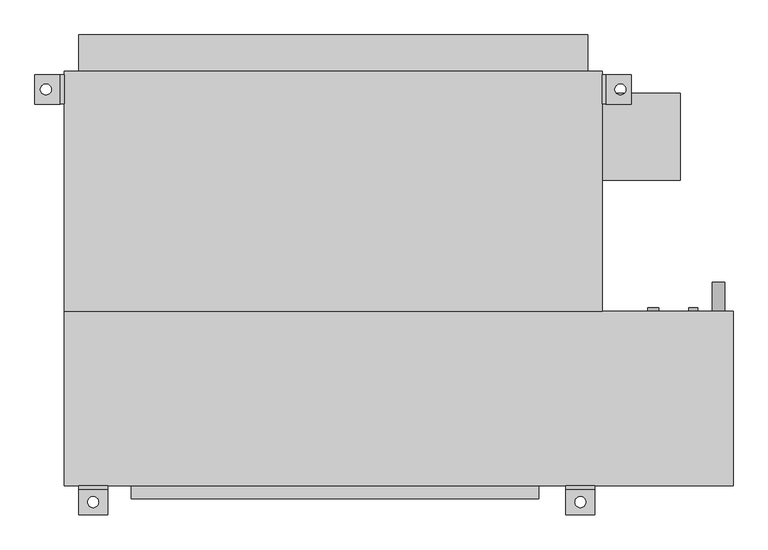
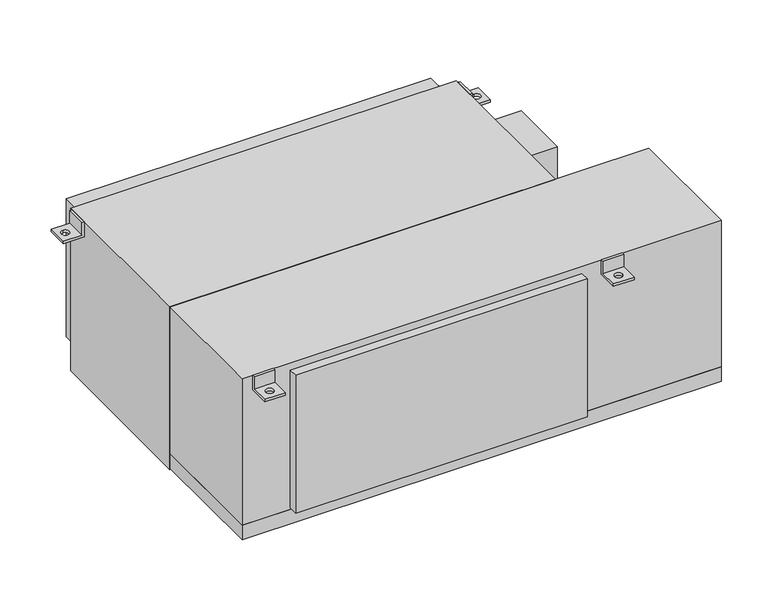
"""IFC4 building model written with IfcOpenShell, lengths in millimetres: proxy geometry, Concealed_High_Capacity_Horizontal_Fan_Coil_Unit_With_Plenum_-_42DCA_-_CARRIER_-_4-Pipe_ValveEnclosure_RH_2022 : Size 12 - 277v/60Hz/1Ph - 6/2 Coil."""

from ifc_helpers import new_model, si_unit, point, frame, frame_2d, origin, place, context, project, spatial, polyline, circle_curve, trimmed, segment, composite_curve, outline, extrude, source, transform, mapped, element, save
from ifc_brep_helpers import plane_surface, revolved_surface, advanced_brep


def mechanical_equipment_ee1d81b4(model_context):
    return source(origin(), model_context, "Body", "SolidModel", [
        advanced_brep(
        [(609.6, -390.525, 0.0), (609.6, -396.875, 0.0), (609.6, -396.875, -31.75), (609.6, -441.325, -31.75), (609.6, -441.325, -38.1), (609.6, -390.525, -38.1), (558.8, -390.525, 0.0), (558.8, -390.525, -38.1), (558.8, -441.325, -38.1), (558.8, -441.325, -31.75), (558.8, -396.875, -31.75), (558.8, -396.875, 0.0), (574.675, -419.1, -31.75), (593.725, -419.1, -31.75), (593.725, -419.1, -38.1), (574.675, -419.1, -38.1)],
        [
            (0, 1),
            (1, 2),
            (2, 3),
            (3, 4),
            (4, 5),
            (5, 0),
            (6, 7),
            (7, 8),
            (8, 9),
            (9, 10),
            (10, 11),
            (11, 6),
            (0, 6),
            (11, 1),
            (10, 2),
            (9, 3),
            (12, 13, circle_curve(frame((584.2, -419.1, -31.75), z_axis=(0.0, 0.0, -1.0), x_axis=(1.0, 0.0, 0.0)), 9.525)),
            (13, 12, circle_curve(frame((584.2, -419.1, -31.75), z_axis=(0.0, 0.0, -1.0), x_axis=(1.0, 0.0, 0.0)), 9.525)),
            (8, 4),
            (7, 5),
            (14, 15, circle_curve(frame((584.2, -419.1, -38.1), z_axis=(0.0, 0.0, 1.0), x_axis=(1.0, 0.0, 0.0)), 9.525)),
            (15, 14, circle_curve(frame((584.2, -419.1, -38.1), z_axis=(0.0, 0.0, 1.0), x_axis=(1.0, 0.0, 0.0)), 9.525)),
            (12, 15),
            (14, 13),
        ],
        [
            plane_surface(frame((609.6, -396.875, 0.0), z_axis=(1.0, 0.0, 0.0), x_axis=(0.0, -1.0, 0.0))),
            plane_surface(frame((558.8, -396.875, 0.0), z_axis=(-1.0, 0.0, 0.0), x_axis=(0.0, 1.0, 0.0))),
            plane_surface(frame((609.6, -390.525, 0.0), z_axis=(0.0, 0.0, 1.0), x_axis=(-1.0, 0.0, 0.0))),
            plane_surface(frame((609.6, -396.875, 0.0), z_axis=(0.0, -1.0, 0.0), x_axis=(-1.0, 0.0, 0.0))),
            plane_surface(frame((609.6, -396.875, -31.75), z_axis=(0.0, 0.0, 1.0), x_axis=(-1.0, 0.0, 0.0))),
            plane_surface(frame((609.6, -441.325, -31.75), z_axis=(0.0, -1.0, 0.0), x_axis=(-1.0, 0.0, 0.0))),
            plane_surface(frame((609.6, -441.325, -38.1), z_axis=(0.0, 0.0, -1.0), x_axis=(-1.0, 0.0, 0.0))),
            plane_surface(frame((609.6, -390.525, -38.1), z_axis=(0.0, 1.0, 0.0), x_axis=(-1.0, 0.0, 0.0))),
            revolved_surface(polyline([(593.725, -419.1, -38.1), (593.725, -419.1, -31.75)]), (584.2, -419.1, -31.75), (0.0, 0.0, -1.0)),
        ],
        [
            (0, [[1, 2, 3, 4, 5, 6]]),
            (1, [[7, 8, 9, 10, 11, 12]]),
            (2, [[-1, 13, -12, 14]]),
            (3, [[-2, -14, -11, 15]]),
            (4, [[-3, -15, -10, 16], [17, 18]]),
            (5, [[-4, -16, -9, 19]]),
            (6, [[-5, -19, -8, 20], [21, 22]]),
            (7, [[-6, -20, -7, -13]]),
            (8, [[23, -21, 24, -17]]),
            (8, [[-23, -18, -24, -22]]),
        ],
    ),
        advanced_brep(
        [(-241.3, -390.525, -38.1), (-241.3, -390.525, 0.0), (-241.3, -396.875, 0.0), (-241.3, -396.875, -31.75), (-241.3, -441.325, -31.75), (-241.3, -441.325, -38.1), (-292.1, -390.525, -38.1), (-292.1, -441.325, -38.1), (-292.1, -441.325, -31.75), (-292.1, -396.875, -31.75), (-292.1, -396.875, 0.0), (-292.1, -390.525, 0.0), (-276.225, -419.1, -31.75), (-257.175, -419.1, -31.75), (-257.175, -419.1, -38.1), (-276.225, -419.1, -38.1)],
        [
            (0, 1),
            (1, 2),
            (2, 3),
            (3, 4),
            (4, 5),
            (5, 0),
            (6, 7),
            (7, 8),
            (8, 9),
            (9, 10),
            (10, 11),
            (11, 6),
            (0, 6),
            (11, 1),
            (10, 2),
            (9, 3),
            (8, 4),
            (12, 13, circle_curve(frame((-266.7, -419.1, -31.75), z_axis=(0.0, 0.0, -1.0), x_axis=(1.0, 0.0, 0.0)), 9.525)),
            (13, 12, circle_curve(frame((-266.7, -419.1, -31.75), z_axis=(0.0, 0.0, -1.0), x_axis=(1.0, 0.0, 0.0)), 9.525)),
            (7, 5),
            (14, 15, circle_curve(frame((-266.7, -419.1, -38.1), z_axis=(0.0, 0.0, 1.0), x_axis=(1.0, 0.0, 0.0)), 9.525)),
            (15, 14, circle_curve(frame((-266.7, -419.1, -38.1), z_axis=(0.0, 0.0, 1.0), x_axis=(1.0, 0.0, 0.0)), 9.525)),
            (12, 15),
            (14, 13),
        ],
        [
            plane_surface(frame((-241.3, -390.525, -38.1), z_axis=(1.0, 0.0, 0.0), x_axis=(0.0, 0.0, 1.0))),
            plane_surface(frame((-292.1, -390.525, -38.1), z_axis=(-1.0, 0.0, 0.0), x_axis=(0.0, 0.0, -1.0))),
            plane_surface(frame((-241.3, -390.525, -38.1), z_axis=(0.0, 1.0, 0.0), x_axis=(-1.0, 0.0, 0.0))),
            plane_surface(frame((-241.3, -390.525, 0.0), z_axis=(0.0, 0.0, 1.0), x_axis=(-1.0, 0.0, 0.0))),
            plane_surface(frame((-241.3, -396.875, 0.0), z_axis=(0.0, -1.0, 0.0), x_axis=(-1.0, 0.0, 0.0))),
            plane_surface(frame((-241.3, -396.875, -31.75), z_axis=(0.0, 0.0, 1.0), x_axis=(-1.0, 0.0, 0.0))),
            plane_surface(frame((-241.3, -441.325, -31.75), z_axis=(0.0, -1.0, 0.0), x_axis=(-1.0, 0.0, 0.0))),
            plane_surface(frame((-241.3, -441.325, -38.1), z_axis=(0.0, 0.0, -1.0), x_axis=(-1.0, 0.0, 0.0))),
            revolved_surface(polyline([(-257.175, -419.1, -38.1), (-257.175, -419.1, -31.75)]), (-266.7, -419.1, -31.75), (0.0, 0.0, -1.0)),
        ],
        [
            (0, [[1, 2, 3, 4, 5, 6]]),
            (1, [[7, 8, 9, 10, 11, 12]]),
            (2, [[-1, 13, -12, 14]]),
            (3, [[-2, -14, -11, 15]]),
            (4, [[-3, -15, -10, 16]]),
            (5, [[-4, -16, -9, 17], [18, 19]]),
            (6, [[-5, -17, -8, 20]]),
            (7, [[-6, -20, -7, -13], [21, 22]]),
            (8, [[23, -21, 24, -18]]),
            (8, [[-23, -19, -24, -22]]),
        ],
    ),
        extrude(outline(composite_curve([segment(trimmed(circle_curve(frame_2d((-400.05, 825.5)), 11.1125), [point((-400.05, 814.3875))], [point((-400.05, 836.6125))], False, "CARTESIAN"), True, "CONTINUOUS"), segment(trimmed(circle_curve(frame_2d((-400.05, 825.5)), 11.1125), [point((-400.05, 836.6125))], [point((-400.05, 814.3875))], False, "CARTESIAN"), True, "CONTINUOUS")], self_intersect=False)), frame((0.0, -85.725, 0.0), z_axis=(0.0, 1.0, 0.0), x_axis=(0.0, 0.0, 1.0)), (0.0, 0.0, 1.0), 50.8),
        extrude(outline(composite_curve([segment(trimmed(circle_curve(frame_2d((-44.45, 711.2)), 9.525), [point((-44.45, 701.675))], [point((-44.45, 720.725))], False, "CARTESIAN"), True, "CONTINUOUS"), segment(trimmed(circle_curve(frame_2d((-44.45, 711.2)), 9.525), [point((-44.45, 720.725))], [point((-44.45, 701.675))], False, "CARTESIAN"), True, "CONTINUOUS")], self_intersect=False)), frame((0.0, -85.725, 0.0), z_axis=(0.0, 1.0, 0.0), x_axis=(0.0, 0.0, 1.0)), (0.0, 0.0, 1.0), 6.35),
        extrude(outline(composite_curve([segment(trimmed(circle_curve(frame_2d((-276.225, 711.2)), 9.525), [point((-276.225, 701.675))], [point((-276.225, 720.725))], False, "CARTESIAN"), True, "CONTINUOUS"), segment(trimmed(circle_curve(frame_2d((-276.225, 711.2)), 9.525), [point((-276.225, 720.725))], [point((-276.225, 701.675))], False, "CARTESIAN"), True, "CONTINUOUS")], self_intersect=False)), frame((0.0, -85.725, 0.0), z_axis=(0.0, 1.0, 0.0), x_axis=(0.0, 0.0, 1.0)), (0.0, 0.0, 1.0), 6.35),
        extrude(outline(composite_curve([segment(trimmed(circle_curve(frame_2d((-69.85, 781.05)), 7.9375), [point((-69.85, 773.1125))], [point((-69.85, 788.9875))], False, "CARTESIAN"), True, "CONTINUOUS"), segment(trimmed(circle_curve(frame_2d((-69.85, 781.05)), 7.9375), [point((-69.85, 788.9875))], [point((-69.85, 773.1125))], False, "CARTESIAN"), True, "CONTINUOUS")], self_intersect=False)), frame((0.0, -85.725, 0.0), z_axis=(0.0, 1.0, 0.0), x_axis=(0.0, 0.0, 1.0)), (0.0, 0.0, 1.0), 6.35),
        extrude(outline(composite_curve([segment(trimmed(circle_curve(frame_2d((-285.75, 781.05)), 7.9375), [point((-285.75, 773.1125))], [point((-285.75, 788.9875))], False, "CARTESIAN"), True, "CONTINUOUS"), segment(trimmed(circle_curve(frame_2d((-285.75, 781.05)), 7.9375), [point((-285.75, 788.9875))], [point((-285.75, 773.1125))], False, "CARTESIAN"), True, "CONTINUOUS")], self_intersect=False)), frame((0.0, -85.725, 0.0), z_axis=(0.0, 1.0, 0.0), x_axis=(0.0, 0.0, 1.0)), (0.0, 0.0, 1.0), 6.35),
        advanced_brep(
        [(-317.5, 327.025, -38.1), (-368.3, 327.025, -38.1), (-368.3, 327.025, -31.75), (-323.85, 327.025, -31.75), (-323.85, 327.025, 0.0), (-317.5, 327.025, 0.0), (-317.5, 276.225, -38.1), (-317.5, 276.225, 0.0), (-323.85, 276.225, 0.0), (-323.85, 276.225, -31.75), (-368.3, 276.225, -31.75), (-368.3, 276.225, -38.1), (-349.25, 292.1, -38.1), (-349.25, 311.15, -38.1), (-349.25, 311.15, -31.75), (-349.25, 292.1, -31.75)],
        [
            (0, 1),
            (1, 2),
            (2, 3),
            (3, 4),
            (4, 5),
            (5, 0),
            (6, 7),
            (7, 8),
            (8, 9),
            (9, 10),
            (10, 11),
            (11, 6),
            (0, 6),
            (11, 1),
            (12, 13, circle_curve(frame((-349.25, 301.625, -38.1), z_axis=(0.0, 0.0, 1.0), x_axis=(0.0, -1.0, 0.0)), 9.525)),
            (13, 12, circle_curve(frame((-349.25, 301.625, -38.1), z_axis=(0.0, 0.0, 1.0), x_axis=(0.0, -1.0, 0.0)), 9.525)),
            (10, 2),
            (9, 3),
            (14, 15, circle_curve(frame((-349.25, 301.625, -31.75), z_axis=(0.0, 0.0, -1.0), x_axis=(0.0, -1.0, 0.0)), 9.525)),
            (15, 14, circle_curve(frame((-349.25, 301.625, -31.75), z_axis=(0.0, 0.0, -1.0), x_axis=(0.0, -1.0, 0.0)), 9.525)),
            (8, 4),
            (7, 5),
            (14, 13),
            (12, 15),
        ],
        [
            plane_surface(frame((-317.5, 327.025, -38.1), z_axis=(0.0, 1.0, 0.0), x_axis=(-1.0, 0.0, 0.0))),
            plane_surface(frame((-317.5, 276.225, -38.1), z_axis=(0.0, -1.0, 0.0), x_axis=(1.0, 0.0, 0.0))),
            plane_surface(frame((-317.5, 327.025, -38.1), z_axis=(0.0, 0.0, -1.0), x_axis=(0.0, -1.0, 0.0))),
            plane_surface(frame((-368.3, 327.025, -38.1), z_axis=(-1.0, 0.0, 0.0), x_axis=(0.0, -1.0, 0.0))),
            plane_surface(frame((-368.3, 327.025, -31.75), z_axis=(0.0, 0.0, 1.0), x_axis=(0.0, -1.0, 0.0))),
            plane_surface(frame((-323.85, 327.025, -31.75), z_axis=(-1.0, 0.0, 0.0), x_axis=(0.0, -1.0, 0.0))),
            plane_surface(frame((-323.85, 327.025, 0.0), z_axis=(0.0, 0.0, 1.0), x_axis=(0.0, -1.0, 0.0))),
            plane_surface(frame((-317.5, 327.025, 0.0), z_axis=(1.0, 0.0, 0.0), x_axis=(0.0, -1.0, 0.0))),
            revolved_surface(polyline([(-349.25, 292.1, -38.1), (-349.25, 292.1, -31.75)]), (-349.25, 301.625, -31.75), (0.0, 0.0, -1.0)),
        ],
        [
            (0, [[1, 2, 3, 4, 5, 6]]),
            (1, [[7, 8, 9, 10, 11, 12]]),
            (2, [[-1, 13, -12, 14], [15, 16]]),
            (3, [[-2, -14, -11, 17]]),
            (4, [[-3, -17, -10, 18], [19, 20]]),
            (5, [[-4, -18, -9, 21]]),
            (6, [[-5, -21, -8, 22]]),
            (7, [[-6, -22, -7, -13]]),
            (8, [[23, -15, 24, -19]]),
            (8, [[-23, -20, -24, -16]]),
        ],
    ),
        advanced_brep(
        [(622.3, 327.025, -38.1), (622.3, 327.025, 0.0), (628.65, 327.025, 0.0), (628.65, 327.025, -31.75), (673.1, 327.025, -31.75), (673.1, 327.025, -38.1), (622.3, 276.225, -38.1), (673.1, 276.225, -38.1), (673.1, 276.225, -31.75), (628.65, 276.225, -31.75), (628.65, 276.225, 0.0), (622.3, 276.225, 0.0), (654.05, 311.15, -31.75), (654.05, 292.1, -31.75), (654.05, 292.1, -38.1), (654.05, 311.15, -38.1)],
        [
            (0, 1),
            (1, 2),
            (2, 3),
            (3, 4),
            (4, 5),
            (5, 0),
            (6, 7),
            (7, 8),
            (8, 9),
            (9, 10),
            (10, 11),
            (11, 6),
            (0, 6),
            (11, 1),
            (10, 2),
            (9, 3),
            (8, 4),
            (12, 13, circle_curve(frame((654.05, 301.625, -31.75), z_axis=(0.0, 0.0, -1.0), x_axis=(0.0, -1.0, 0.0)), 9.525)),
            (13, 12, circle_curve(frame((654.05, 301.625, -31.75), z_axis=(0.0, 0.0, -1.0), x_axis=(0.0, -1.0, 0.0)), 9.525)),
            (7, 5),
            (14, 15, circle_curve(frame((654.05, 301.625, -38.1), z_axis=(0.0, 0.0, 1.0), x_axis=(0.0, -1.0, 0.0)), 9.525)),
            (15, 14, circle_curve(frame((654.05, 301.625, -38.1), z_axis=(0.0, 0.0, 1.0), x_axis=(0.0, -1.0, 0.0)), 9.525)),
            (12, 15),
            (14, 13),
        ],
        [
            plane_surface(frame((-317.5, 327.025, -38.1), z_axis=(0.0, 1.0, 0.0), x_axis=(-1.0, 0.0, 0.0))),
            plane_surface(frame((-317.5, 276.225, -38.1), z_axis=(0.0, -1.0, 0.0), x_axis=(1.0, 0.0, 0.0))),
            plane_surface(frame((622.3, 327.025, -38.1), z_axis=(-1.0, 0.0, 0.0), x_axis=(0.0, -1.0, 0.0))),
            plane_surface(frame((622.3, 327.025, 0.0), z_axis=(0.0, 0.0, 1.0), x_axis=(0.0, -1.0, 0.0))),
            plane_surface(frame((628.65, 327.025, 0.0), z_axis=(1.0, 0.0, 0.0), x_axis=(0.0, -1.0, 0.0))),
            plane_surface(frame((628.65, 327.025, -31.75), z_axis=(0.0, 0.0, 1.0), x_axis=(0.0, -1.0, 0.0))),
            plane_surface(frame((673.1, 327.025, -31.75), z_axis=(1.0, 0.0, 0.0), x_axis=(0.0, -1.0, 0.0))),
            plane_surface(frame((673.1, 327.025, -38.1), z_axis=(0.0, 0.0, -1.0), x_axis=(0.0, -1.0, 0.0))),
            revolved_surface(polyline([(654.05, 292.1, -38.1), (654.05, 292.1, -31.75)]), (654.05, 301.625, -31.75), (0.0, 0.0, -1.0)),
        ],
        [
            (0, [[1, 2, 3, 4, 5, 6]]),
            (1, [[7, 8, 9, 10, 11, 12]]),
            (2, [[-1, 13, -12, 14]]),
            (3, [[-2, -14, -11, 15]]),
            (4, [[-3, -15, -10, 16]]),
            (5, [[-4, -16, -9, 17], [18, 19]]),
            (6, [[-5, -17, -8, 20]]),
            (7, [[-6, -20, -7, -13], [21, 22]]),
            (8, [[23, -21, 24, -18]]),
            (8, [[-23, -19, -24, -22]]),
        ],
    ),
        extrude(outline(polyline([(-292.1, 396.875), (596.9, 396.875), (596.9, 333.375), (-292.1, 333.375), (-292.1, 396.875)])), frame((0.0, 0.0, -377.825), z_axis=(0.0, 0.0, 1.0), x_axis=(1.0, 0.0, 0.0)), (0.0, 0.0, 1.0), 355.6),
        extrude(outline(polyline([(758.825, 295.275), (758.825, 142.875), (622.3, 142.875), (622.3, 295.275), (758.825, 295.275)])), frame((0.0, 0.0, -254.0), z_axis=(0.0, 0.0, 1.0), x_axis=(1.0, 0.0, 0.0)), (0.0, 0.0, 1.0), 152.4),
        extrude(outline(polyline([(511.175, -412.75), (-200.025, -412.75), (-200.025, -390.525), (511.175, -390.525), (511.175, -412.75)])), frame((0.0, 0.0, -374.65), z_axis=(0.0, 0.0, 1.0), x_axis=(1.0, 0.0, 0.0)), (0.0, 0.0, 1.0), 355.6),
        extrude(outline(polyline([(622.3, -85.725), (-317.5, -85.725), (-317.5, 333.375), (622.3, 333.375), (622.3, -85.725)])), frame((0.0, 0.0, -419.1), z_axis=(0.0, 0.0, 1.0), x_axis=(1.0, 0.0, 0.0)), (0.0, 0.0, 1.0), 419.1),
        extrude(outline(polyline([(850.9, -85.725), (850.9, -390.525), (-317.5, -390.525), (-317.5, -85.725), (850.9, -85.725)])), frame((0.0, 0.0, -377.825), z_axis=(0.0, 0.0, 1.0), x_axis=(1.0, 0.0, 0.0)), (0.0, 0.0, 1.0), 377.825),
        extrude(outline(polyline([(850.9, -85.725), (850.9, -390.525), (-317.5, -390.525), (-317.5, -85.725), (850.9, -85.725)])), frame((0.0, 0.0, -415.925), z_axis=(0.0, 0.0, 1.0), x_axis=(1.0, 0.0, 0.0)), (0.0, 0.0, 1.0), 38.1),
    ])


if __name__ == "__main__":
    model = new_model("IFC4")
    model_context = context("Model", 3, world=origin())
    ifc_project = project(units=[si_unit("LENGTHUNIT", "METRE", prefix="MILLI")], contexts=[model_context])
    site = spatial("IfcSite", under=ifc_project)
    building = spatial("IfcBuilding", under=site)
    placement = place(None, origin())
    mechanical_equipment_shape = mechanical_equipment_ee1d81b4(model_context)
    element("IfcBuildingElementProxy", 1, Name="Concealed_High_Capacity_Horizontal_Fan_Coil_Unit_With_Plenum_-_42DCA_-_CARRIER_-_4-Pipe_ValveEnclosure_RH_2022 : Size 12 - 277v/60Hz/1Ph - 6/2 Coil", ObjectType="Concealed_High_Capacity_Horizontal_Fan_Coil_Unit_With_Plenum_-_42DCA_-_CARRIER_-_4-Pipe_ValveEnclosure_RH_2022 : Size 12 - 277v/60Hz/1Ph - 6/2 Coil", at=placement, inside=building, context=model_context, shape_type="MappedRepresentation", body=[
        mapped(mechanical_equipment_shape, transform((0.0, 0.0, 0.0), x_axis=(1.0, 0.0, 0.0), y_axis=(0.0, 1.0, 0.0), z_axis=(0.0, 0.0, 1.0))),
    ])
    save(model, "model.ifc")
